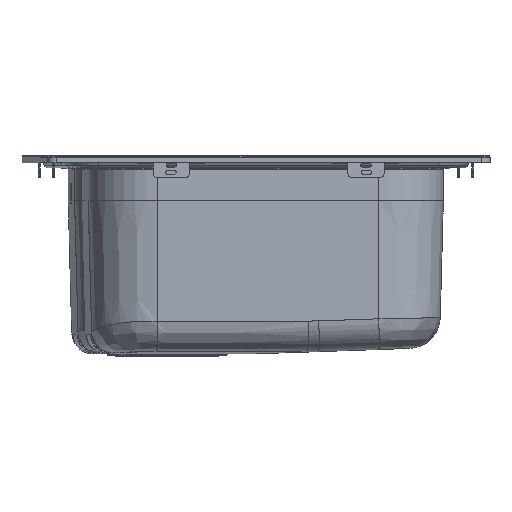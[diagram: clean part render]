
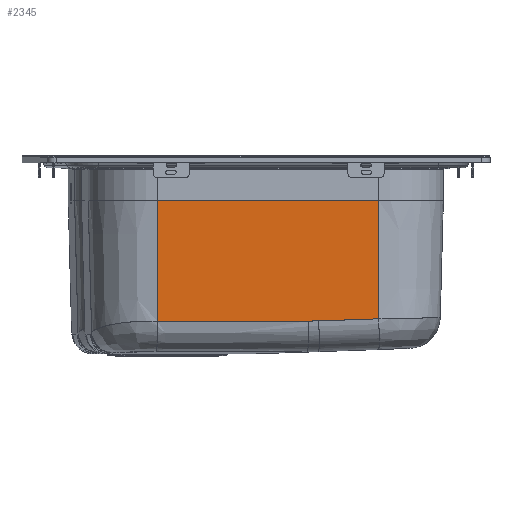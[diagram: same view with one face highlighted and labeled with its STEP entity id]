
A CAD part, left-side view. The second image highlights one B-rep face of the part: STEP entity #2345.
In plain terms, the highlighted planar face has unit normal (-0.999, -0.037, -0.026).
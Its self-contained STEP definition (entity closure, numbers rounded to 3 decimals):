
#529=B_SPLINE_CURVE_WITH_KNOTS('',5,(#27005,#27006,#27007,#27008,#27009,
#27010,#27011,#27012,#27013,#27014,#27015,#27016,#27017,#27018,#27019,#27020,
#27021,#27022,#27023,#27024,#27025,#27026,#27027,#27028),.UNSPECIFIED.,.F.,
 .F.,(6,3,3,3,3,3,3,6),(0.,0.016,0.031,0.063,
0.125,0.25,0.5,1.),.UNSPECIFIED.);
#535=B_SPLINE_CURVE_WITH_KNOTS('',3,(#27898,#27899,#27900,#27901),.UNSPECIFIED.,
 .F.,.F.,(4,4),(0.,1.),.UNSPECIFIED.);
#2345=ADVANCED_FACE('PARTBODY',(#3491),#2965,.F.);
#2965=PLANE('',#15967);
#3491=FACE_OUTER_BOUND('',#4353,.T.);
#4353=EDGE_LOOP('',(#6840,#6841,#6842,#6843,#6844,#6845));
#6840=ORIENTED_EDGE('',*,*,#11819,.F.);
#6841=ORIENTED_EDGE('',*,*,#11804,.F.);
#6842=ORIENTED_EDGE('',*,*,#11798,.T.);
#6843=ORIENTED_EDGE('',*,*,#11820,.T.);
#6844=ORIENTED_EDGE('',*,*,#11794,.T.);
#6845=ORIENTED_EDGE('',*,*,#11818,.T.);
#10024=VERTEX_POINT('',#26757);
#10025=VERTEX_POINT('',#26978);
#10026=VERTEX_POINT('',#27004);
#10027=VERTEX_POINT('',#27029);
#10028=VERTEX_POINT('',#27765);
#10035=VERTEX_POINT('',#27894);
#11794=EDGE_CURVE('LINE',#10025,#10024,#13563,.T.);
#11798=EDGE_CURVE('',#10027,#10026,#529,.T.);
#11804=EDGE_CURVE('LINE',#10027,#10028,#13564,.T.);
#11818=EDGE_CURVE('LINE',#10024,#10035,#13574,.T.);
#11819=EDGE_CURVE('LINE',#10028,#10035,#13575,.T.);
#11820=EDGE_CURVE('',#10026,#10025,#535,.T.);
#13563=LINE('',#26977,#14663);
#13564=LINE('',#27766,#14664);
#13574=LINE('',#27895,#14674);
#13575=LINE('',#27897,#14675);
#14663=VECTOR('',#18525,1.);
#14664=VECTOR('',#18532,1.);
#14674=VECTOR('',#18560,1.);
#14675=VECTOR('',#18563,1.);
#15967=AXIS2_PLACEMENT_3D('',#27902,#18564,#18565);
#18525=DIRECTION('',(0.037,-0.999,0.035));
#18532=DIRECTION('',(-0.026,-0.001,1.));
#18560=DIRECTION('',(-0.026,-0.001,1.));
#18563=DIRECTION('',(0.037,-0.999,0.));
#18564=DIRECTION('',(0.999,0.037,0.026));
#18565=DIRECTION('',(0.037,-0.999,0.));
#26757=CARTESIAN_POINT('',(-347.801,-138.613,-164.129));
#26977=CARTESIAN_POINT('',(-349.039,-104.747,-165.312));
#26978=CARTESIAN_POINT('',(-350.278,-70.881,-166.496));
#27004=CARTESIAN_POINT('',(-350.705,-59.367,-166.697));
#27005=CARTESIAN_POINT('',(-357.101,111.214,-166.697));
#27006=CARTESIAN_POINT('',(-357.082,110.7,-166.697));
#27007=CARTESIAN_POINT('',(-357.062,110.18,-166.697));
#27008=CARTESIAN_POINT('',(-357.043,109.655,-166.697));
#27009=CARTESIAN_POINT('',(-357.003,108.608,-166.697));
#27010=CARTESIAN_POINT('',(-356.964,107.56,-166.697));
#27011=CARTESIAN_POINT('',(-356.944,107.036,-166.697));
#27012=CARTESIAN_POINT('',(-356.885,105.463,-166.697));
#27013=CARTESIAN_POINT('',(-356.826,103.889,-166.697));
#27014=CARTESIAN_POINT('',(-356.787,102.839,-166.697));
#27015=CARTESIAN_POINT('',(-356.669,99.687,-166.697));
#27016=CARTESIAN_POINT('',(-356.551,96.53,-166.697));
#27017=CARTESIAN_POINT('',(-356.472,94.424,-166.697));
#27018=CARTESIAN_POINT('',(-356.234,88.098,-166.697));
#27019=CARTESIAN_POINT('',(-355.996,81.755,-166.697));
#27020=CARTESIAN_POINT('',(-355.838,77.52,-166.697));
#27021=CARTESIAN_POINT('',(-355.361,64.8,-166.697));
#27022=CARTESIAN_POINT('',(-354.882,52.034,-166.697));
#27023=CARTESIAN_POINT('',(-354.562,43.509,-166.697));
#27024=CARTESIAN_POINT('',(-353.602,17.895,-166.697));
#27025=CARTESIAN_POINT('',(-352.638,-7.821,-166.697));
#27026=CARTESIAN_POINT('',(-351.994,-24.998,-166.697));
#27027=CARTESIAN_POINT('',(-351.348,-42.202,-166.697));
#27028=CARTESIAN_POINT('',(-350.705,-59.367,-166.697));
#27029=CARTESIAN_POINT('',(-357.101,111.214,-166.697));
#27765=CARTESIAN_POINT('',(-360.652,111.081,-31.009));
#27766=CARTESIAN_POINT('',(-358.708,111.154,-105.292));
#27894=CARTESIAN_POINT('',(-351.284,-138.743,-31.009));
#27895=CARTESIAN_POINT('',(-349.542,-138.678,-97.566));
#27897=CARTESIAN_POINT('',(-355.968,-13.831,-31.009));
#27898=CARTESIAN_POINT('',(-350.705,-59.366,-166.697));
#27899=CARTESIAN_POINT('',(-350.561,-63.208,-166.697));
#27900=CARTESIAN_POINT('',(-350.419,-67.048,-166.63));
#27901=CARTESIAN_POINT('',(-350.278,-70.881,-166.496));
#27902=CARTESIAN_POINT('',(-359.715,86.099,-31.018));
